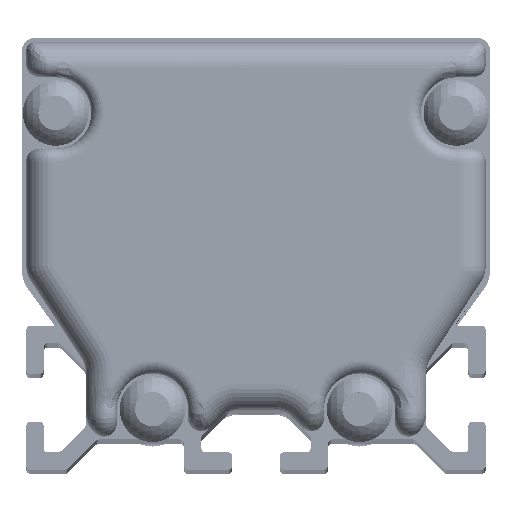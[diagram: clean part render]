
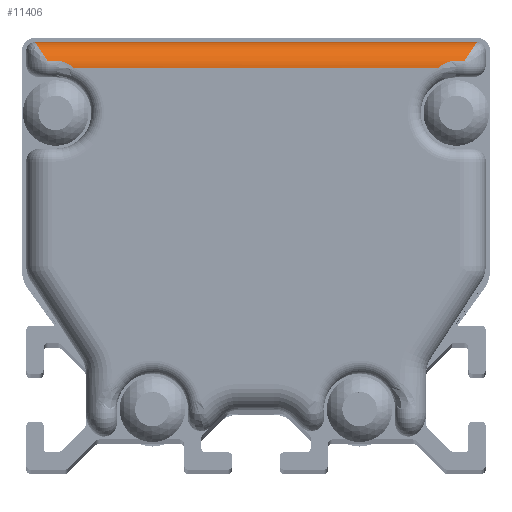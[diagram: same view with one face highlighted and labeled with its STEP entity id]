
A CAD part, top view. The second image highlights one B-rep face of the part: STEP entity #11406.
In plain terms, the highlighted cylindrical face has radius 3 mm (diameter 6 mm), a partial arc.
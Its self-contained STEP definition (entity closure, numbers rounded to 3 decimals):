
#1521 = CARTESIAN_POINT ( 'NONE',  ( 22.234, 36.689, 9.921 ) ) ;
#2133 = DIRECTION ( 'NONE',  ( 1., 0., 0. ) ) ;
#6006 = CARTESIAN_POINT ( 'NONE',  ( -21.7, 36.448, 9.968 ) ) ;
#7329 = ORIENTED_EDGE ( 'NONE', *, *, #92288, .T. ) ;
#11406 = ADVANCED_FACE ( 'NONE', ( #54000 ), #54631, .T. ) ;
#12016 = LINE ( 'NONE', #113085, #57067 ) ;
#13505 = CARTESIAN_POINT ( 'NONE',  ( 22.424, 36.749, 9.905 ) ) ;
#17985 = CARTESIAN_POINT ( 'NONE',  ( -22.803, 36.829, 9.884 ) ) ;
#18124 = ORIENTED_EDGE ( 'NONE', *, *, #21380, .F. ) ;
#20483 = EDGE_CURVE ( 'NONE', #26297, #102544, #80574, .T. ) ;
#21380 = EDGE_CURVE ( 'NONE', #107904, #96316, #45519, .T. ) ;
#21451 = CARTESIAN_POINT ( 'NONE',  ( 24.167, 36.85, 9.877 ) ) ;
#21972 = DIRECTION ( 'NONE',  ( 1., 0., 0. ) ) ;
#23379 = VECTOR ( 'NONE', #45358, 1000. ) ;
#24053 = CARTESIAN_POINT ( 'NONE',  ( 0., 36., 7. ) ) ;
#24704 = DIRECTION ( 'NONE',  ( 0., 0., -1. ) ) ;
#24737 = CARTESIAN_POINT ( 'NONE',  ( -25.6, 36., 10. ) ) ;
#26297 = VERTEX_POINT ( 'NONE', #96918 ) ;
#26975 = B_SPLINE_CURVE_WITH_KNOTS ( 'NONE', 3,
 ( #47884, #98447, #17985, #35282, #66543, #77156, #6006, #117746, #128355, #37253 ),
 .UNSPECIFIED., .F., .F.,
 ( 4, 2, 2, 2, 4 ),
 ( 0., 0.001, 0.001, 0.002, 0.002 ),
 .UNSPECIFIED. ) ;
#29956 = CARTESIAN_POINT ( 'NONE',  ( -25.6, 39., 7. ) ) ;
#30178 = VECTOR ( 'NONE', #62396, 1000. ) ;
#30896 = DIRECTION ( 'NONE',  ( 1., 0., 0. ) ) ;
#31318 =( BOUNDED_CURVE ( )  B_SPLINE_CURVE ( 3, ( #90791, #37000, #77558, #99469 ),
 .UNSPECIFIED., .F., .F. ) 
 B_SPLINE_CURVE_WITH_KNOTS ( ( 4, 4 ),
 ( 5., 6.283 ),
 .UNSPECIFIED. ) 
 CURVE ( )  GEOMETRIC_REPRESENTATION_ITEM ( )  RATIONAL_B_SPLINE_CURVE ( ( 1., 0.867, 0.867, 1. ) ) 
 REPRESENTATION_ITEM ( '' )  );
#31546 = CARTESIAN_POINT ( 'NONE',  ( 0., 36.85, 9.877 ) ) ;
#31650 = CARTESIAN_POINT ( 'NONE',  ( -23.2, 36.85, 9.877 ) ) ;
#32091 = CARTESIAN_POINT ( 'NONE',  ( 22.807, 36.829, 9.883 ) ) ;
#33907 = ORIENTED_EDGE ( 'NONE', *, *, #20483, .T. ) ;
#35282 = CARTESIAN_POINT ( 'NONE',  ( -22.421, 36.748, 9.906 ) ) ;
#37000 = CARTESIAN_POINT ( 'NONE',  ( 25.049, 38.174, 9.486 ) ) ;
#37253 = CARTESIAN_POINT ( 'NONE',  ( -21.055, 36., 10. ) ) ;
#37382 = ORIENTED_EDGE ( 'NONE', *, *, #115392, .F. ) ;
#40438 = CARTESIAN_POINT ( 'NONE',  ( -24.167, 36.85, 9.877 ) ) ;
#41106 = CARTESIAN_POINT ( 'NONE',  ( -25.6, 39., 7. ) ) ;
#42062 = CARTESIAN_POINT ( 'NONE',  ( 23.2, 36.85, 9.877 ) ) ;
#43386 = LINE ( 'NONE', #24737, #23379 ) ;
#45358 = DIRECTION ( 'NONE',  ( -1., 0., 0. ) ) ;
#45519 =( BOUNDED_CURVE ( )  B_SPLINE_CURVE ( 3, ( #40438, #60412, #70387, #41106 ),
 .UNSPECIFIED., .F., .T. ) 
 B_SPLINE_CURVE_WITH_KNOTS ( ( 4, 4 ),
 ( 5., 6.283 ),
 .UNSPECIFIED. ) 
 CURVE ( )  GEOMETRIC_REPRESENTATION_ITEM ( )  RATIONAL_B_SPLINE_CURVE ( ( 1., 0.867, 0.867, 1. ) ) 
 REPRESENTATION_ITEM ( '' )  );
#47884 = CARTESIAN_POINT ( 'NONE',  ( -23.2, 36.85, 9.877 ) ) ;
#50115 = VERTEX_POINT ( 'NONE', #31650 ) ;
#52652 = VECTOR ( 'NONE', #30896, 1000. ) ;
#54000 = FACE_OUTER_BOUND ( 'NONE', #80663, .T. ) ;
#54175 = LINE ( 'NONE', #31546, #52652 ) ;
#54631 = CYLINDRICAL_SURFACE ( 'NONE', #76995, 3. ) ;
#55590 = VERTEX_POINT ( 'NONE', #109077 ) ;
#57067 = VECTOR ( 'NONE', #21972, 1000. ) ;
#57634 = VERTEX_POINT ( 'NONE', #89324 ) ;
#59038 = EDGE_CURVE ( 'NONE', #26297, #57634, #43386, .T. ) ;
#60412 = CARTESIAN_POINT ( 'NONE',  ( -25.049, 38.174, 9.486 ) ) ;
#62396 = DIRECTION ( 'NONE',  ( 1., 0., 0. ) ) ;
#66022 = CARTESIAN_POINT ( 'NONE',  ( -24.167, 36.85, 9.877 ) ) ;
#66543 = CARTESIAN_POINT ( 'NONE',  ( -22.236, 36.689, 9.921 ) ) ;
#70387 = CARTESIAN_POINT ( 'NONE',  ( -25.6, 39., 8.38 ) ) ;
#73961 = CARTESIAN_POINT ( 'NONE',  ( 21.055, 36., 10. ) ) ;
#76956 = EDGE_CURVE ( 'NONE', #102544, #128969, #54175, .T. ) ;
#76995 = AXIS2_PLACEMENT_3D ( 'NONE', #24053, #2133, #24704 ) ;
#77156 = CARTESIAN_POINT ( 'NONE',  ( -21.876, 36.54, 9.952 ) ) ;
#77558 = CARTESIAN_POINT ( 'NONE',  ( 25.6, 39., 8.38 ) ) ;
#80574 = B_SPLINE_CURVE_WITH_KNOTS ( 'NONE', 3,
 ( #73961, #104567, #114537, #1521, #13505, #32091, #91991, #42062 ),
 .UNSPECIFIED., .F., .F.,
 ( 4, 2, 2, 4 ),
 ( 0., 0.001, 0.002, 0.002 ),
 .UNSPECIFIED. ) ;
#80663 = EDGE_LOOP ( 'NONE', ( #33907, #113783, #113547, #37382, #18124, #90108, #7329, #108562 ) ) ;
#89324 = CARTESIAN_POINT ( 'NONE',  ( -21.055, 36., 10. ) ) ;
#89922 = CARTESIAN_POINT ( 'NONE',  ( 23.2, 36.85, 9.877 ) ) ;
#90108 = ORIENTED_EDGE ( 'NONE', *, *, #120719, .T. ) ;
#90791 = CARTESIAN_POINT ( 'NONE',  ( 24.167, 36.85, 9.877 ) ) ;
#91991 = CARTESIAN_POINT ( 'NONE',  ( 23.002, 36.85, 9.877 ) ) ;
#92288 = EDGE_CURVE ( 'NONE', #50115, #57634, #26975, .T. ) ;
#96316 = VERTEX_POINT ( 'NONE', #29956 ) ;
#96918 = CARTESIAN_POINT ( 'NONE',  ( 21.055, 36., 10. ) ) ;
#98447 = CARTESIAN_POINT ( 'NONE',  ( -23.002, 36.85, 9.877 ) ) ;
#99469 = CARTESIAN_POINT ( 'NONE',  ( 25.6, 39., 7. ) ) ;
#100983 = CARTESIAN_POINT ( 'NONE',  ( 0., 36.85, 9.877 ) ) ;
#102544 = VERTEX_POINT ( 'NONE', #89922 ) ;
#104567 = CARTESIAN_POINT ( 'NONE',  ( 21.36, 36.251, 10. ) ) ;
#107904 = VERTEX_POINT ( 'NONE', #66022 ) ;
#108562 = ORIENTED_EDGE ( 'NONE', *, *, #59038, .F. ) ;
#109077 = CARTESIAN_POINT ( 'NONE',  ( 25.6, 39., 7. ) ) ;
#113085 = CARTESIAN_POINT ( 'NONE',  ( 25.6, 39., 7. ) ) ;
#113547 = ORIENTED_EDGE ( 'NONE', *, *, #130133, .T. ) ;
#113783 = ORIENTED_EDGE ( 'NONE', *, *, #76956, .T. ) ;
#114537 = CARTESIAN_POINT ( 'NONE',  ( 21.693, 36.464, 9.968 ) ) ;
#115392 = EDGE_CURVE ( 'NONE', #96316, #55590, #12016, .T. ) ;
#117746 = CARTESIAN_POINT ( 'NONE',  ( -21.367, 36.241, 9.992 ) ) ;
#120719 = EDGE_CURVE ( 'NONE', #107904, #50115, #121600, .T. ) ;
#121600 = LINE ( 'NONE', #100983, #30178 ) ;
#128355 = CARTESIAN_POINT ( 'NONE',  ( -21.208, 36.126, 10. ) ) ;
#128969 = VERTEX_POINT ( 'NONE', #21451 ) ;
#130133 = EDGE_CURVE ( 'NONE', #128969, #55590, #31318, .T. ) ;
